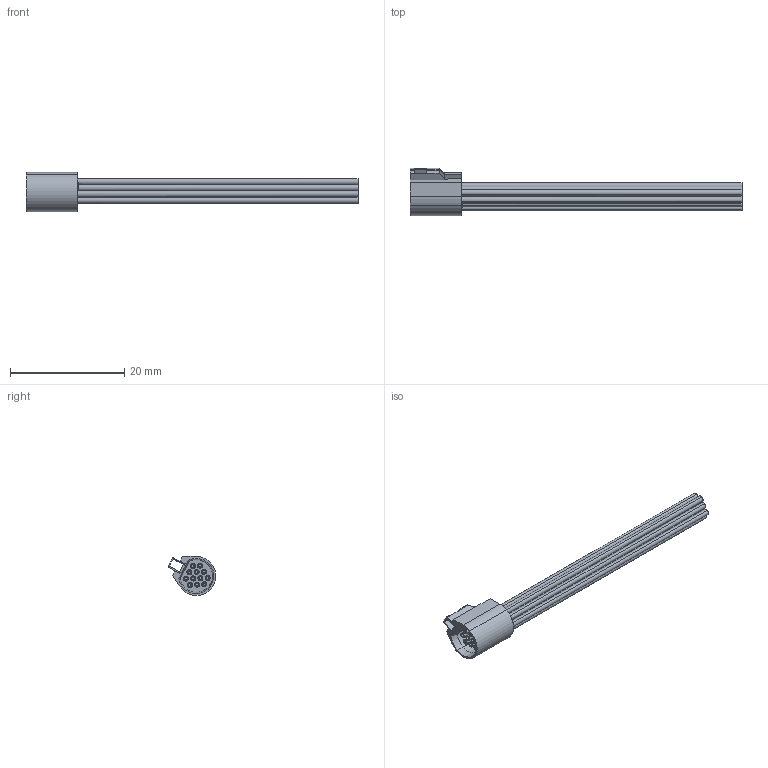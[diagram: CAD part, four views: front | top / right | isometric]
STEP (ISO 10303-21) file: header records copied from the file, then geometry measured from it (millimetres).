
FILE_DESCRIPTION (( 'STEP AP214' ), '1' );
FILE_NAME ('A22022-001 REV C.STEP', '2011-07-20T18:02:39', ( 'IT' ), ( '' ), 'SwSTEP 2.0', 'SolidWorks 2010', '' );
FILE_SCHEMA (( 'AUTOMOTIVE_DESIGN' ));
Length unit declared in the file: inch
Products named in the file (1): A22022-001
Bounding box: 58.24 x 8.36 x 6.86 mm (x, y, z)
Volume: 791.5 mm3; surface area: 2873.2 mm2
Topology: 1 solids, 13 shells, 390 faces, 907 edges, 593 vertices
Faces by surface type: cylinder 184, plane 178, cone 27, bspline 1
Entity records: 11595 total; most frequent: CARTESIAN_POINT 2321, DIRECTION 2019, ORIENTED_EDGE 1814, EDGE_CURVE 907, AXIS2_PLACEMENT_3D 761, VERTEX_POINT 593, VECTOR 497, LINE 497
